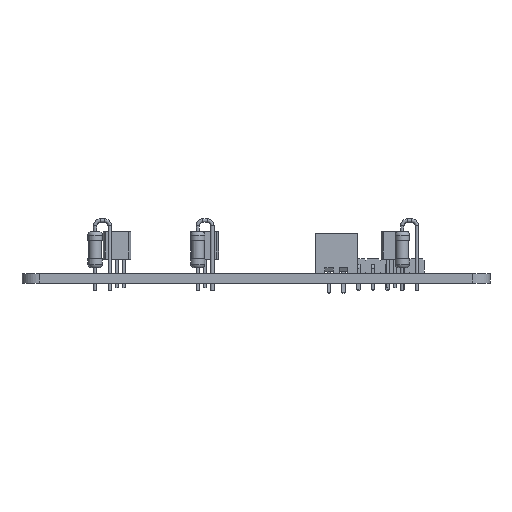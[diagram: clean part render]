
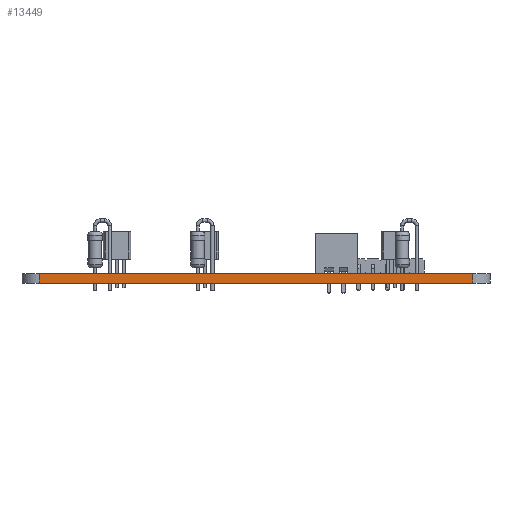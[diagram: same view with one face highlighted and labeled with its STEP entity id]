
A CAD part, front view. The second image highlights one B-rep face of the part: STEP entity #13449.
In plain terms, the highlighted planar face has unit normal (0, -1, 0).
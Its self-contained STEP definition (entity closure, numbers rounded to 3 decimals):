
#8064 = VERTEX_POINT('',#8065);
#8065 = CARTESIAN_POINT('',(107.14,-127.,0.));
#8072 = EDGE_CURVE('',#8073,#8064,#8075,.T.);
#8073 = VERTEX_POINT('',#8074);
#8074 = CARTESIAN_POINT('',(182.42,-127.,0.));
#8075 = LINE('',#8076,#8077);
#8076 = CARTESIAN_POINT('',(182.42,-127.,0.));
#8077 = VECTOR('',#8078,1.);
#8078 = DIRECTION('',(-1.,0.,0.));
#10743 = VERTEX_POINT('',#10744);
#10744 = CARTESIAN_POINT('',(107.14,-127.,1.6));
#10751 = EDGE_CURVE('',#10752,#10743,#10754,.T.);
#10752 = VERTEX_POINT('',#10753);
#10753 = CARTESIAN_POINT('',(182.42,-127.,1.6));
#10754 = LINE('',#10755,#10756);
#10755 = CARTESIAN_POINT('',(182.42,-127.,1.6));
#10756 = VECTOR('',#10757,1.);
#10757 = DIRECTION('',(-1.,0.,0.));
#13421 = EDGE_CURVE('',#8073,#10752,#13422,.T.);
#13422 = LINE('',#13423,#13424);
#13423 = CARTESIAN_POINT('',(182.42,-127.,0.));
#13424 = VECTOR('',#13425,1.);
#13425 = DIRECTION('',(0.,0.,1.));
#13449 = ADVANCED_FACE('',(#13450),#13461,.T.);
#13450 = FACE_BOUND('',#13451,.T.);
#13451 = EDGE_LOOP('',(#13452,#13453,#13454,#13460));
#13452 = ORIENTED_EDGE('',*,*,#13421,.T.);
#13453 = ORIENTED_EDGE('',*,*,#10751,.T.);
#13454 = ORIENTED_EDGE('',*,*,#13455,.F.);
#13455 = EDGE_CURVE('',#8064,#10743,#13456,.T.);
#13456 = LINE('',#13457,#13458);
#13457 = CARTESIAN_POINT('',(107.14,-127.,0.));
#13458 = VECTOR('',#13459,1.);
#13459 = DIRECTION('',(0.,0.,1.));
#13460 = ORIENTED_EDGE('',*,*,#8072,.F.);
#13461 = PLANE('',#13462);
#13462 = AXIS2_PLACEMENT_3D('',#13463,#13464,#13465);
#13463 = CARTESIAN_POINT('',(182.42,-127.,0.));
#13464 = DIRECTION('',(0.,-1.,0.));
#13465 = DIRECTION('',(-1.,0.,0.));
